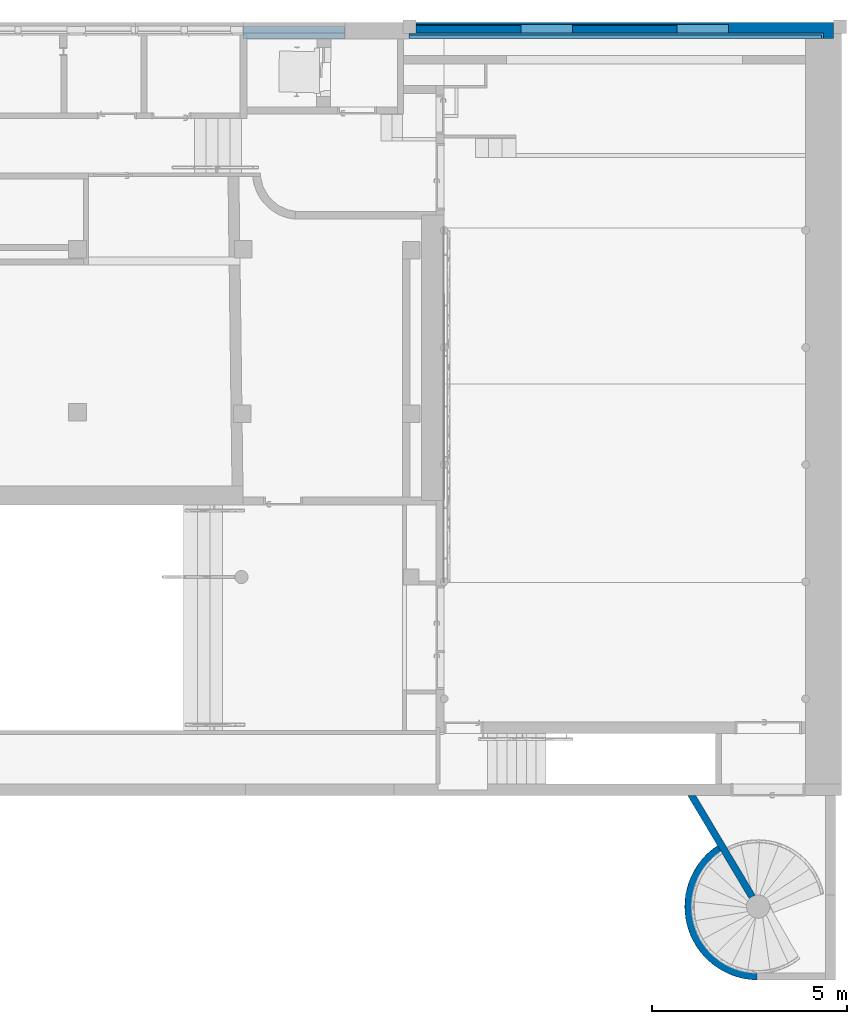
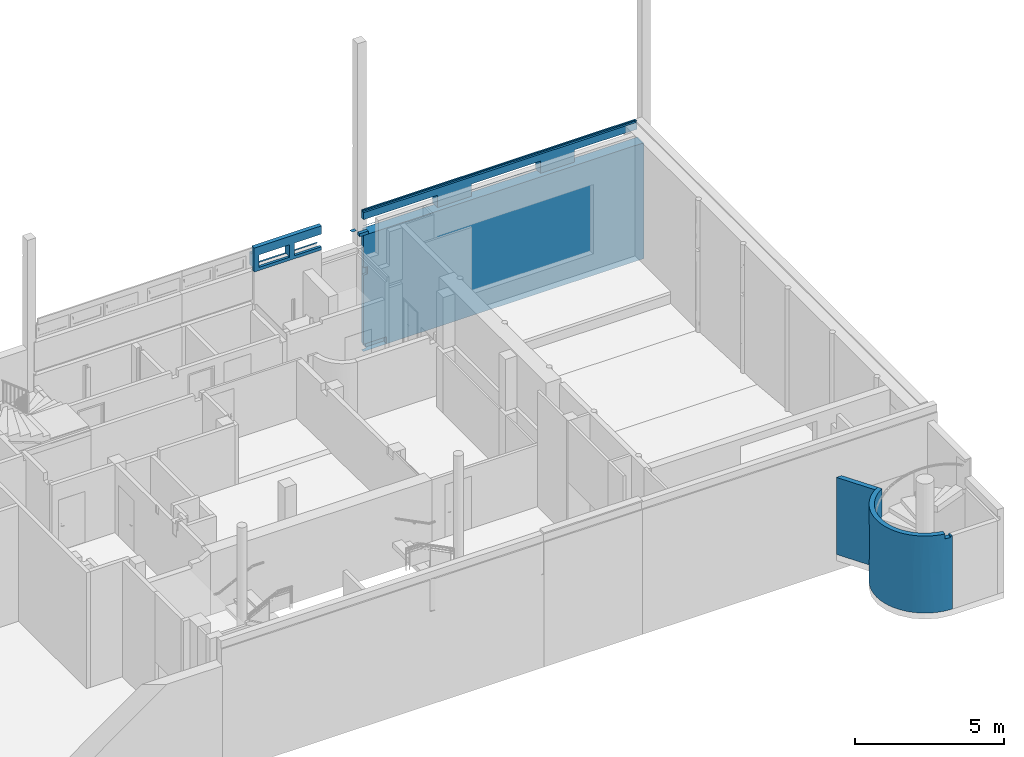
# One storey, part 31 of 39: 5 walls.
"""IFC4 building model written with IfcOpenShell, lengths in metres."""

import ifcopenshell
import ifcopenshell.guid

model = None  # the IFC model being written
_history = None  # IfcOwnerHistory: only IFC2X3 demands one
_inside = {}  # id of a spatial element -> (the spatial element, [elements in it])
_under = {}  # id of a project, library or spatial element -> (it, [spatial elements below it])
_declared = {}  # id of a project -> (the project, [libraries it declares])
_typed = {}  # id of a type object -> (the type object, [elements of that type])
_made_of = {}  # id of a material, layer set ... -> (it, [elements and type objects made of it])


def new_model(schema):
    """Start an empty IFC model of exactly this schema.

    Asked for "IFC4X3", IfcOpenShell would pick the latest addendum, in which some entities
    have other attributes; the version numbers below select the first issue.
    IFC2X3 requires an IfcOwnerHistory on every rooted entity: one is made here for all.
    """
    global model, _history
    if schema == "IFC4X3":
        model = ifcopenshell.file(schema_version=(4, 3, 0, 0))
    else:
        model = ifcopenshell.file(schema=schema)
    _inside.clear()
    _under.clear()
    _declared.clear()
    _typed.clear()
    _made_of.clear()
    _history = None
    if model.schema == "IFC2X3":
        org = make("IfcOrganization", Name="unknown")
        user = make(
            "IfcPersonAndOrganization",
            ThePerson=make("IfcPerson", FamilyName="unknown"),
            TheOrganization=org,
        )
        app = make(
            "IfcApplication",
            ApplicationDeveloper=org,
            Version="unknown",
            ApplicationFullName="unknown",
            ApplicationIdentifier="unknown",
        )
        _history = make(
            "IfcOwnerHistory",
            OwningUser=user,
            OwningApplication=app,
            ChangeAction="ADDED",
            CreationDate=0,
        )
    return model


def make(cls, **values):
    """One entity of the class cls with the attributes given. An attribute that is None is left unset."""
    return model.create_entity(
        cls, **{name: value for name, value in values.items() if value is not None}
    )


def entity(cls, *values):
    """Any entity or typed value of the class cls, its attributes in the order of the schema. None: left unset."""
    e = model.create_entity(cls)
    for i, value in enumerate(values):
        if value is not None:
            e[i] = value
    return e


def rooted(cls, **values):
    """An entity with a GlobalId (a new one), such as an element, a storey or a relation."""
    return make(cls, GlobalId=ifcopenshell.guid.new(), OwnerHistory=_history, **values)


def si_unit(unit_type, name, prefix=None):
    """IfcSIUnit, for example si_unit("LENGTHUNIT", "METRE", prefix="MILLI")."""
    return make("IfcSIUnit", UnitType=unit_type, Prefix=prefix, Name=name)


def converted_unit(unit_type, name, factor, base, dimensions=None, offset=None):
    """IfcConversionBasedUnit, such as the inch: factor (a typed value) times the base unit."""
    return make(
        "IfcConversionBasedUnit"
        if offset is None
        else "IfcConversionBasedUnitWithOffset",
        ConversionOffset=offset,
        Dimensions=None
        if dimensions is None
        else entity("IfcDimensionalExponents", *dimensions),
        UnitType=unit_type,
        Name=name,
        ConversionFactor=make(
            "IfcMeasureWithUnit", ValueComponent=factor, UnitComponent=base
        ),
    )


def derived_unit(unit_type, elements):
    """IfcDerivedUnit: a product of units, each with its exponent."""
    return make(
        "IfcDerivedUnit",
        Elements=[
            make("IfcDerivedUnitElement", Unit=unit, Exponent=power)
            for unit, power in elements
        ],
        UnitType=unit_type,
    )


def assignment(units):
    """IfcUnitAssignment: the units of a project."""
    return None if units is None else make("IfcUnitAssignment", Units=units)


def point(xyz):
    """IfcCartesianPoint."""
    return None if xyz is None else make("IfcCartesianPoint", Coordinates=xyz)


def direction(xyz):
    """IfcDirection."""
    return None if xyz is None else make("IfcDirection", DirectionRatios=xyz)


def frame(location, z_axis=None, x_axis=None):
    """IfcAxis2Placement3D, a coordinate frame: its origin and axes. An axis left out is left unset."""
    return make(
        "IfcAxis2Placement3D",
        Location=point(location),
        Axis=direction(z_axis),
        RefDirection=direction(x_axis),
    )


def origin():
    """The frame at (0, 0, 0) with its axes left unset."""
    return frame((0.0, 0.0, 0.0))


def place(relative_to, where):
    """IfcLocalPlacement: puts the frame where relative to a parent placement (None: the world)."""
    return make(
        "IfcLocalPlacement", PlacementRelTo=relative_to, RelativePlacement=where
    )


def context(
    kind, dimensions, precision=None, world=None, true_north=None, identifier=None
):
    """IfcGeometricRepresentationContext, for example the 3D "Model" context."""
    return make(
        "IfcGeometricRepresentationContext",
        ContextIdentifier=identifier,
        ContextType=kind,
        CoordinateSpaceDimension=dimensions,
        Precision=precision,
        WorldCoordinateSystem=world,
        TrueNorth=true_north,
    )


def subcontext(parent, identifier, kind, view, scale=None):
    """IfcGeometricRepresentationSubContext, for example "Body" below "Model"."""
    return make(
        "IfcGeometricRepresentationSubContext",
        ContextIdentifier=identifier,
        ContextType=kind,
        ParentContext=parent,
        TargetScale=scale,
        TargetView=view,
    )


def project(units=None, contexts=None):
    """IfcProject with its units and contexts."""
    return rooted(
        "IfcProject",
        Name="project",
        RepresentationContexts=contexts,
        UnitsInContext=assignment(units),
    )


def spatial(cls, under=None, at=None, **own):
    """A site, building, storey or space (cls), placed at a placement, below another one or the project."""
    s = rooted(cls, ObjectPlacement=at, **own)
    if under is not None:
        _under.setdefault(under.id(), (under, []))[1].append(s)
    return s


def point_list(points):
    """IfcCartesianPointList2D or 3D."""
    cls = (
        "IfcCartesianPointList2D" if len(points[0]) == 2 else "IfcCartesianPointList3D"
    )
    return make(cls, CoordList=points)


def polygons(points, faces, closed=None, point_numbers=None):
    """IfcPolygonalFaceSet: a face is its outer loop, then its inner loops; points numbered from 1."""
    made = []
    for loops in faces:
        if len(loops) == 1:
            made.append(make("IfcIndexedPolygonalFace", CoordIndex=loops[0]))
        else:
            made.append(
                make(
                    "IfcIndexedPolygonalFaceWithVoids",
                    CoordIndex=loops[0],
                    InnerCoordIndices=loops[1:],
                )
            )
    return make(
        "IfcPolygonalFaceSet",
        Coordinates=point_list(points),
        Closed=closed,
        Faces=made,
        PnIndex=point_numbers,
    )


def shape(context_of_items, identifier, shape_type, items):
    """IfcShapeRepresentation: the items that make up one representation, for example the "Body"."""
    return make(
        "IfcShapeRepresentation",
        ContextOfItems=context_of_items,
        RepresentationIdentifier=identifier,
        RepresentationType=shape_type,
        Items=items,
    )


def material(Name=None, Category=None):
    """IfcMaterial."""
    return make("IfcMaterial", Name=Name, Category=Category)


def layer(
    of_material, thickness, ventilated=None, Name=None, Category=None, Priority=None
):
    """IfcMaterialLayer: one layer of a wall or slab, of a material (None: an air gap)."""
    return make(
        "IfcMaterialLayer",
        Material=of_material,
        LayerThickness=thickness,
        IsVentilated=ventilated,
        Name=Name,
        Category=Category,
        Priority=Priority,
    )


def layer_set(layers, Name=None):
    """IfcMaterialLayerSet."""
    return make("IfcMaterialLayerSet", MaterialLayers=layers, LayerSetName=Name)


def made_of(thing, what):
    """Note that an element or type object is made of a material, layer set ...; save() writes the relation."""
    if what is not None:
        _made_of.setdefault(what.id(), (what, []))[1].append(thing)
    return thing


def type_object(cls, material=None, **own):
    """A type object (cls), such as IfcWallType, which elements share."""
    return made_of(rooted(cls, **own), material)


def element(
    cls,
    number,
    at=None,
    inside=None,
    cuts=None,
    type_object=None,
    material=None,
    context=None,
    identifier="Body",
    shape_type=None,
    held_by="IfcProductDefinitionShape",
    body=None,
    shapes=None,
    **own,
):
    """One element of the class cls, such as IfcWall. Its Tag is "e" and its number.

    at: its placement. inside: the storey or other place that contains it. cuts: it is an
    opening in that element (IfcRelVoidsElement). A single representation is given by context,
    identifier, shape_type and body (its items); several are given by shapes. held_by: the class
    of the entity that holds the representations. save() writes the other relations.
    """
    e = rooted(cls, Tag="e%d" % number, ObjectPlacement=at, **own)
    if body is not None:
        shapes = [shape(context, identifier, shape_type, body)]
    if shapes is not None:
        e.Representation = make(held_by, Representations=shapes)
    if inside is not None:
        _inside.setdefault(inside.id(), (inside, []))[1].append(e)
    if cuts is not None:
        rooted(
            "IfcRelVoidsElement", RelatingBuildingElement=cuts, RelatedOpeningElement=e
        )
    if type_object is not None:
        _typed.setdefault(type_object.id(), (type_object, []))[1].append(e)
    return made_of(e, material)


def aggregate(whole, parts):
    """IfcRelAggregates: a whole, such as a stair, and the parts it consists of."""
    return rooted("IfcRelAggregates", RelatingObject=whole, RelatedObjects=parts)


def save(model, path):
    """Write the relations noted so far, then the file.

    IfcRelAggregates (storeys below a building ...), IfcRelContainedInSpatialStructure (elements
    in a storey), IfcRelDefinesByType, IfcRelAssociatesMaterial and IfcRelDeclares: one each for
    every whole, place, type object, material and project.
    """
    for whole, parts in _under.values():
        aggregate(whole, parts)
    for where, things in _inside.values():
        rooted(
            "IfcRelContainedInSpatialStructure",
            RelatedElements=things,
            RelatingStructure=where,
        )
    for kind, things in _typed.values():
        rooted("IfcRelDefinesByType", RelatedObjects=things, RelatingType=kind)
    for what, things in _made_of.values():
        rooted("IfcRelAssociatesMaterial", RelatedObjects=things, RelatingMaterial=what)
    for by, libraries in _declared.values():
        rooted("IfcRelDeclares", RelatingContext=by, RelatedDefinitions=libraries)
    model.write(path)


model = new_model("IFC4")

# Units and contexts
model_context = context("Model", 3, precision=1e-05, world=origin(), true_north=direction((6.12303176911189e-17, 1.0)))
body_context = subcontext(model_context, "Body", "Model", "MODEL_VIEW")
ifc_project = project(units=[si_unit("LENGTHUNIT", "METRE"), si_unit("AREAUNIT", "SQUARE_METRE"), si_unit("VOLUMEUNIT", "CUBIC_METRE"), converted_unit("PLANEANGLEUNIT", "DEGREE", entity("IfcRatioMeasure", 0.0174532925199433), si_unit("PLANEANGLEUNIT", "RADIAN"), dimensions=[0, 0, 0, 0, 0, 0, 0]), si_unit("MASSUNIT", "GRAM", prefix="KILO"), derived_unit("MASSDENSITYUNIT", [(si_unit("MASSUNIT", "GRAM", prefix="KILO"), 1), (si_unit("LENGTHUNIT", "METRE"), -3)]), derived_unit("MOMENTOFINERTIAUNIT", [(si_unit("LENGTHUNIT", "METRE"), 4)]), si_unit("TIMEUNIT", "SECOND"), si_unit("FREQUENCYUNIT", "HERTZ"), si_unit("THERMODYNAMICTEMPERATUREUNIT", "DEGREE_CELSIUS"), derived_unit("THERMALTRANSMITTANCEUNIT", [(si_unit("MASSUNIT", "GRAM", prefix="KILO"), 1), (si_unit("THERMODYNAMICTEMPERATUREUNIT", "KELVIN"), -1), (si_unit("TIMEUNIT", "SECOND"), -3)]), derived_unit("VOLUMETRICFLOWRATEUNIT", [(si_unit("LENGTHUNIT", "METRE"), 3), (si_unit("TIMEUNIT", "SECOND"), -1)]), si_unit("ELECTRICCURRENTUNIT", "AMPERE"), si_unit("ELECTRICVOLTAGEUNIT", "VOLT"), si_unit("POWERUNIT", "WATT"), si_unit("FORCEUNIT", "NEWTON", prefix="KILO"), si_unit("ILLUMINANCEUNIT", "LUX"), si_unit("LUMINOUSFLUXUNIT", "LUMEN"), si_unit("LUMINOUSINTENSITYUNIT", "CANDELA"), derived_unit("USERDEFINED", [(si_unit("MASSUNIT", "GRAM", prefix="KILO"), -1), (si_unit("LENGTHUNIT", "METRE"), -2), (si_unit("TIMEUNIT", "SECOND"), 3), (si_unit("LUMINOUSFLUXUNIT", "LUMEN"), 1)]), derived_unit("LINEARVELOCITYUNIT", [(si_unit("LENGTHUNIT", "METRE"), 1), (si_unit("TIMEUNIT", "SECOND"), -1)]), si_unit("PRESSUREUNIT", "PASCAL"), derived_unit("USERDEFINED", [(si_unit("LENGTHUNIT", "METRE"), -2), (si_unit("MASSUNIT", "GRAM", prefix="KILO"), 1), (si_unit("TIMEUNIT", "SECOND"), -2)]), derived_unit("LINEARFORCEUNIT", [(si_unit("MASSUNIT", "GRAM", prefix="KILO"), 1), (si_unit("LENGTHUNIT", "METRE"), 1), (si_unit("TIMEUNIT", "SECOND"), -2), (si_unit("LENGTHUNIT", "METRE"), -1)]), derived_unit("PLANARFORCEUNIT", [(si_unit("MASSUNIT", "GRAM", prefix="KILO"), 1), (si_unit("LENGTHUNIT", "METRE"), 1), (si_unit("TIMEUNIT", "SECOND"), -2), (si_unit("LENGTHUNIT", "METRE"), -2)])], contexts=[model_context])

# Site, building, storey
site_placement = place(None, origin())
site = spatial("IfcSite", under=ifc_project, at=site_placement, Name="Default", CompositionType="ELEMENT")
building_placement = place(site_placement, origin())
building = spatial("IfcBuilding", under=site, at=building_placement, Name="HOTEL CONSULAIRE BOULOGNE SUR MER", CompositionType="ELEMENT")
storey_placement = place(building_placement, frame((0.0, 0.0, -5.02343668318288)))
storey = spatial("IfcBuildingStorey", under=building, at=storey_placement, Name="SS3", CompositionType="ELEMENT", Elevation=-5.02343668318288)

# Walls
ifc_material = material(Name="Mur par défaut", Category="Divers")
ifc_layer_1 = layer(ifc_material, 0.32, Name="Mur par défaut", Category="Divers")
ifc_layer_set_1 = layer_set([ifc_layer_1], Name="Mur de base:Générique - Ext.320 mm")
wall_type_1 = type_object("IfcWallType", Name="Mur de base:Générique - Ext.320 mm", PredefinedType="NOTDEFINED", material=ifc_layer_set_1)
wall_1_placement = place(storey_placement, frame((7.20898026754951, -10.07432416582, 3.81699999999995)))
element("IfcWall", 1, at=wall_1_placement, inside=storey, type_object=wall_type_1, material=ifc_layer_set_1, Name="Mur de base:Générique - Ext.320 mm", ObjectType="Mur de base:Générique - Ext.320 mm", PredefinedType="NOTDEFINED", context=body_context, shape_type="Tessellation", body=[
    polygons([(1.55444242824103, -0.16, 0.129258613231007), (2.61644380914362, -0.16, 0.129258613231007), (2.61644380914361, -0.059999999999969, 0.129258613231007), (1.55444242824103, -0.0599999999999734, 0.129258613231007), (0.17794798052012, -0.16, 0.129258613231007), (1.37654209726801, -0.16, 0.129258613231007), (1.37654209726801, -0.0599999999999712, 0.129258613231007), (0.177947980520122, -0.0599999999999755, 0.129258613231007), (2.61644380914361, -0.000308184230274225, 0.986436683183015), (2.61644380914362, -0.16, 0.986436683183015), (2.61644380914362, -0.16, 0.645389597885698), (2.61644380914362, 0.140000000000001, 0.645389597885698), (2.61644380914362, 0.16, 0.645389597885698), (2.61644380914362, 0.16, 0.646436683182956), (2.61644380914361, -0.000308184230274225, 0.646436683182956), (2.61644380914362, 0.16, 0.121777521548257), (2.61644380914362, 0.16, 0.129258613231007), (2.61644380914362, 0.140000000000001, 0.129258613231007), (2.61644380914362, 0.0888221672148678, 0.129258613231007), (-1.70439024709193e-15, -0.16, 0.0), (2.61644380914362, -0.16, 0.0), (1.55444242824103, -0.16, 0.645389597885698), (2.25568594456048, -0.16, 0.986436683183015), (1.89566927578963, -0.16, 0.986436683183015), (-1.70439024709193e-15, -0.16, 0.986436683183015), (0.17794798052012, -0.16, 0.645389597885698), (1.376542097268, -0.16, 0.645389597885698), (-8.05840482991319e-16, 0.16, 0.646436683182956), (1.55444242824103, 0.16, 0.645389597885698), (1.55444242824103, 0.16, 0.129258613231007), (-8.05840482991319e-16, 0.16, 0.121777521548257), (1.37654209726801, 0.16, 0.645389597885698), (0.177947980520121, 0.16, 0.645389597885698), (0.177947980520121, 0.16, 0.129258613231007), (1.37654209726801, 0.16, 0.129258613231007), (-1.01751827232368e-15, -0.0599999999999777, 0.0), (2.61644380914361, -0.059999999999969, 0.0), (0.0999999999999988, -0.000308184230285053, 0.986436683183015), (-1.25389497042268e-15, -0.000308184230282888, 0.986436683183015), (-1.25389497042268e-15, -0.000308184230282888, 0.646436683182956), (-1.01751827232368e-15, -0.0599999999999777, 0.144900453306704), (0.177947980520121, -0.0599999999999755, 0.144900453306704), (1.55444242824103, 0.0888221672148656, 0.129258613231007), (1.55444242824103, -0.0599999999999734, 0.144900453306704), (1.37654209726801, -0.0599999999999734, 0.144900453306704), (1.37654209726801, 0.0888221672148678, 0.129258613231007), (0.177947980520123, 0.0888221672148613, 0.129258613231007), (0.177947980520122, 0.140000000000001, 0.645389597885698), (1.37654209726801, 0.140000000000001, 0.645389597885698), (0.177947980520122, 0.140000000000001, 0.129258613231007), (1.37654209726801, 0.140000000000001, 0.129258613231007), (1.55444242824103, 0.140000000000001, 0.645389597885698), (1.55444242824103, 0.140000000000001, 0.129258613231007)], [[[2, 3, 4, 1]], [[6, 7, 8, 5]], [[23, 10, 9, 38, 39, 25, 24]], [[28, 40, 15, 14]], [[35, 34, 50, 47, 46, 51]], [[17, 30, 53, 43, 19, 18]], [[9, 10, 11, 12, 13, 14, 15]], [[18, 19, 16, 17]], [[2, 21, 37, 3]], [[47, 50, 34, 33, 48, 26, 5, 8, 42]], [[43, 53, 30, 29, 52, 22, 1, 4, 44]], [[20, 21, 2, 1, 22, 11, 10, 23, 24, 25], [5, 26, 27, 6]], [[16, 31, 28, 14, 13, 29, 30, 17], [35, 32, 33, 34]], [[38, 9, 15, 40, 39]], [[8, 7, 45, 44, 4, 3, 37, 36, 41, 42]], [[21, 20, 36, 37]], [[33, 32, 49, 27, 26, 48]], [[29, 13, 12, 11, 22, 52]], [[20, 25, 39, 40, 28, 31, 41, 36]], [[49, 32, 35, 51, 46, 45, 7, 6, 27]], [[47, 42, 41, 31, 16, 19, 43, 44, 45, 46]]], closed=True),
])
ifc_layer_2 = layer(ifc_material, 0.4, Name="Mur par défaut", Category="Divers")
ifc_layer_set_2 = layer_set([ifc_layer_2], Name="Mur de base:Générique - Ext.400")
wall_type_2 = type_object("IfcWallType", Name="Mur de base:Générique - Ext.400", PredefinedType="NOTDEFINED", material=ifc_layer_set_2)
wall_2_placement = place(storey_placement, frame((22.3370193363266, -10.0140173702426, -0.940919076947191), z_axis=(0.0, 0.0, 1.0), x_axis=(-1.0, 0.0, 0.0)))
element("IfcWall", 2, at=wall_2_placement, inside=storey, type_object=wall_type_2, material=ifc_layer_set_2, Name="Mur de base:Générique - Ext.400", ObjectType="Mur de base:Générique - Ext.400", PredefinedType="NOTDEFINED", context=body_context, shape_type="Tessellation", body=[
    polygons([(10.8760607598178, 0.200000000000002, 0.0), (10.8760607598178, 0.200000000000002, 0.000919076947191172), (10.8760607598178, 0.0706149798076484, 0.000919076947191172), (10.8760607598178, 0.0706149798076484, 0.0), (10.6903810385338, 0.0706149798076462, 0.000919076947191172), (10.6903810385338, 0.0706149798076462, 0.0), (2.26491087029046e-15, -0.2, 4.75791907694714), (2.26491087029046e-15, -0.2, 0.0), (10.6903810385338, -0.2, 0.0), (10.6903810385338, -0.2, 4.75791907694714), (9.44887232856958e-16, 0.2, 0.0), (9.44887232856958e-16, 0.2, 4.75791907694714), (10.6903810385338, 0.2, 4.75791907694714), (10.8760607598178, 0.200000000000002, 4.75791907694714), (10.8760607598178, 0.200000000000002, 4.29275597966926), (10.8760607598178, 0.200000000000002, 3.43091907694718), (10.7265813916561, 0.2, 3.43091907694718), (10.7265813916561, 0.2, 3.13091907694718), (10.8760607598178, 0.200000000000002, 3.13091907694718), (10.8760607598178, 0.200000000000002, 0.290919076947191), (9.97779251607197, 0.2, 0.290919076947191), (9.97779251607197, 0.2, 0.000919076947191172), (10.6903810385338, 0.0706149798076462, 4.75791907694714), (10.8760607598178, 0.0706149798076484, 4.75791907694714), (10.8760607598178, 0.0706149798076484, 4.29278028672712), (10.8760607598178, 0.0706149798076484, 0.290919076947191), (10.8760607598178, 0.108054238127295, 3.13091907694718), (10.8760607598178, 0.108054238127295, 3.43091907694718), (9.97779251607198, 0.0103067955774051, 0.000919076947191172), (10.6903810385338, 0.0103067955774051, 0.000919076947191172), (9.97779251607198, 0.0103067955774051, 0.290919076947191), (10.6903810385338, 0.0706149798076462, 0.290919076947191), (10.6903810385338, 0.0103067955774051, 0.290919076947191), (10.7265813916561, 0.108054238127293, 3.13091907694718), (10.7265813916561, 0.108054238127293, 3.43091907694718)], [[[3, 4, 1, 2]], [[26, 20, 19, 27, 28, 16, 15, 14, 24, 25]], [[21, 31, 29, 22]], [[33, 32, 23, 10, 9, 6, 5, 30]], [[17, 35, 34, 18]], [[4, 3, 5, 6]], [[7, 8, 9, 10]], [[25, 24, 23, 32, 26]], [[2, 1, 11, 12, 13, 14, 15, 16, 17, 18, 19, 20, 21, 22]], [[33, 30, 29, 31]], [[34, 35, 28, 27]], [[8, 11, 1, 4, 6, 9]], [[32, 33, 31, 21, 20, 26]], [[16, 28, 35, 17]], [[7, 10, 23, 24, 14, 13, 12]], [[5, 3, 2, 22, 29, 30]], [[18, 34, 27, 19]], [[8, 7, 12, 11]]], closed=True),
])
ifc_layer_3 = layer(ifc_material, 0.18, Name="Mur par défaut", Category="Divers")
ifc_layer_set_3 = layer_set([ifc_layer_3], Name="Mur de base:Générique - Ext.180")
wall_type_3 = type_object("IfcWallType", Name="Mur de base:Générique - Ext.180", PredefinedType="NOTDEFINED", material=ifc_layer_set_3)
wall_3_placement = place(storey_placement, frame((18.6825593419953, -29.5719659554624, 0.0), z_axis=(0.0, 0.0, 1.0), x_axis=(0.512234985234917, -0.858845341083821, 0.0)))
element("IfcWall", 3, at=wall_3_placement, inside=storey, type_object=wall_type_3, material=ifc_layer_set_3, Name="Mur de base:Générique - Ext.180", ObjectType="Mur de base:Générique - Ext.180", PredefinedType="NOTDEFINED", context=body_context, shape_type="Tessellation", body=[
    polygons([(0.0, -0.089999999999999, 0.0), (1.48654629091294, -0.0899999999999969, 0.0), (1.66678367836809, -0.089999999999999, 0.0), (3.07061188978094, -0.089999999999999, 0.0), (3.07061188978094, -0.089999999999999, 1.59061083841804), (1.66678367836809, -0.089999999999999, 1.59061083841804), (1.48654629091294, -0.089999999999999, 1.59061083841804), (1.48654629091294, -0.0899999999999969, 3.16190864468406), (0.0, -0.089999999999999, 3.16190864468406), (0.107356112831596, 0.0900000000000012, 0.0), (0.107356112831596, 0.0900000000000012, 3.16190864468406), (1.48638163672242, 0.089999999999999, 3.16190864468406), (1.48638163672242, 0.089999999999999, 1.59061083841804), (1.6666015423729, 0.0900000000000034, 1.59061083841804), (3.07061188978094, 0.0900000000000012, 1.59061083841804), (3.07061188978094, 0.0900000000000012, 0.0), (1.48430834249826, -1.97184490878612e-06, 3.16190864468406), (1.48430834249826, -1.97184490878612e-06, 1.59061083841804), (1.48638163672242, 0.089999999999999, 2.40494785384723), (1.48654629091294, -0.089999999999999, 2.34757162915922), (1.48430927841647, -0.000827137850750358, 2.50737200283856)], [[[9, 1, 2, 3, 4, 5, 6, 7, 20, 8]], [[16, 10, 11, 12, 19, 13, 14, 15]], [[10, 1, 9, 11]], [[4, 3, 2, 1, 10, 16]], [[5, 4, 16, 15]], [[9, 8, 17, 12, 11]], [[6, 5, 15, 14, 13, 18, 7]], [[13, 19, 18]], [[21, 17, 8]], [[18, 21, 20]], [[21, 12, 17]], [[20, 21, 8]], [[20, 7, 18]], [[19, 21, 18]], [[21, 19, 12]]], closed=True),
])
wall_4_placement = place(storey_placement, frame((19.5715224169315, -30.877631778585, 0.0)))
element("IfcWall", 4, at=wall_4_placement, inside=storey, type_object=wall_type_3, material=ifc_layer_set_3, Name="Mur de base:Générique - Ext.180", ObjectType="Mur de base:Générique - Ext.180", PredefinedType="NOTDEFINED", context=body_context, shape_type="Tessellation", body=[
    polygons([(0.0420246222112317, -0.0795859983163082, 3.16190864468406), (-0.0502903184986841, 0.0751950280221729, 3.16190864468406), (-0.128671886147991, 0.0308604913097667, 3.16190864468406), (-0.204787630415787, -0.0171426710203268, 3.16190864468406), (-0.322609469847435, -0.102192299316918, 3.16190864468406), (-0.433504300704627, -0.196084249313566, 3.16190864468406), (-0.536815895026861, -0.298260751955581, 3.16190864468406), (-0.631927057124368, -0.408111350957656, 3.16190864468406), (-0.718269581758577, -0.524979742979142, 3.16190864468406), (-0.79532765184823, -0.648167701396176, 3.16190864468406), (-0.862640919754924, -0.776939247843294, 3.16190864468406), (-0.919807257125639, -0.910525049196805, 3.16190864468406), (-0.966485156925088, -1.04812701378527, 3.16190864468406), (-1.00239577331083, -1.1889230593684, 3.16190864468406), (-1.02732458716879, -1.33207202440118, 3.16190864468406), (-1.04112268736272, -1.47671869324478, 3.16190864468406), (-1.04370766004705, -1.62199890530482, 3.16190864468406), (-1.03506408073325, -1.76704471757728, 3.16190864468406), (-1.01524360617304, -1.91098958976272, 3.16190864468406), (-0.984364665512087, -2.0529735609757, 3.16190864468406), (-0.942611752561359, -2.19214838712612, 3.16190864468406), (-0.890234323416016, -2.3276826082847, 3.16190864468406), (-0.827545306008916, -2.4587665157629, 3.16190864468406), (-0.754919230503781, -2.58461698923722, 3.16190864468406), (-0.672789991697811, -2.70448217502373, 3.16190864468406), (-0.58164825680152, -2.81764597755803, 3.16190864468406), (-0.482038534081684, -2.92343233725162, 3.16190864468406), (-0.374555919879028, -3.02120926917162, 3.16190864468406), (-0.25984254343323, -3.11039263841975, 3.16190864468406), (-0.138583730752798, -3.19044964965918, 3.16190864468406), (-0.0115039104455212, -3.26090202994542, 3.16190864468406), (0.120637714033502, -3.32132888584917, 3.16190864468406), (0.257051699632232, -3.37136921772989, 3.16190864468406), (0.396923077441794, -3.41072407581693, 3.16190864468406), (0.539418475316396, -3.43915870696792, 3.16190864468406), (0.565114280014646, -3.26097937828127, 3.16190864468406), (0.426591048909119, -3.23268311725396, 3.16190864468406), (0.290900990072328, -3.19297426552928, 3.16190864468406), (0.158979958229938, -3.14212704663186, 3.16190864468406), (0.0317405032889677, -3.0804931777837, 3.16190864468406), (-0.089937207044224, -3.00849899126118, 3.16190864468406), (-0.205211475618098, -2.92664248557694, 3.16190864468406), (-0.31328489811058, -2.83548988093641, 3.16190864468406), (-0.413409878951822, -2.73567170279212, 3.16190864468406), (-0.504893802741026, -2.62787842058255, 3.16190864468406), (-0.587103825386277, -2.51285567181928, 3.16190864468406), (-0.659471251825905, -2.39139910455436, 3.16190864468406), (-0.721495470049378, -2.26434887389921, 3.16190864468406), (-0.772747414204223, -2.13258383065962, 3.16190864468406), (-0.812872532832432, -1.99701544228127, 3.16190864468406), (-0.841593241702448, -1.85858148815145, 3.16190864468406), (-0.858710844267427, -1.71823957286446, 3.16190864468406), (-0.864106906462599, -1.57696050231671, 3.16190864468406), (-0.857744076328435, -1.43572156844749, 3.16190864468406), (-0.839666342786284, -1.29549978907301, 3.16190864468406), (-0.809998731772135, -1.1572651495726, 3.16190864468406), (-0.768946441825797, -1.02197389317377, 3.16190864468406), (-0.716793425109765, -0.890561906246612, 3.16190864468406), (-0.65390042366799, -0.763938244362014, 3.16190864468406), (-0.580702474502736, -0.642978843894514, 3.16190864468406), (-0.497705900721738, -0.528520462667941, 3.16190864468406), (-0.405484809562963, -0.421354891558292, 3.16190864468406), (-0.304677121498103, -0.322223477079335, 3.16190864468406), (-0.195980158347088, -0.231811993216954, 3.16190864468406), (-0.0801458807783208, -0.15074593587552, 3.16190864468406), (-0.112474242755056, -0.17194472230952, 0.0), (-0.228221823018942, -0.257055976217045, 0.0), (-0.336368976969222, -0.351637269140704, 0.0), (-0.436143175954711, -0.455012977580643, 0.0), (-0.526831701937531, -0.566444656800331, 0.0), (-0.607786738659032, -0.685136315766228, 0.0), (-0.678429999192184, -0.81024010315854, 0.0), (-0.738256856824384, -0.940862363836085, 0.0), (-0.786839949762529, -1.07607002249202, 0.0), (-0.823832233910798, -1.21489724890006, 0.0), (-0.848969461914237, -1.35635235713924, 0.0), (-0.862072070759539, -1.49942488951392, 0.0), (-0.863046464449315, -1.64309283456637, 0.0), (-0.851885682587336, -1.7863299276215, 0.0), (-0.828669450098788, -1.92811298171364, 0.0), (-0.793563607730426, -2.06742919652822, 0.0), (-0.746818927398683, -2.20328339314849, 0.0), (-0.688769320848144, -2.33470512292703, 0.0), (-0.619829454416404, -2.46075559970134, 0.0), (-0.540491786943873, -2.58053440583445, 0.0), (-0.451323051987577, -2.6931859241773, 0.0), (-0.35296020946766, -2.7979054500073, 0.0), (-0.246105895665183, -2.89394493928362, 0.0), (-0.131523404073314, -2.98061835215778, 0.0), (-0.0100312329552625, -3.05730655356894, 0.0), (0.117502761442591, -3.12346173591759, 0.0), (0.250167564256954, -3.17861133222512, 0.0), (0.387015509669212, -3.22236139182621, 0.0), (0.527069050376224, -3.25439939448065, 0.0), (0.66932774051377, -3.27449648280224, 0.0), (0.812775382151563, -3.28250909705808, 0.0), (0.81158849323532, -3.46250909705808, 0.0), (0.657696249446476, -3.45421150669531, 0.0), (0.505000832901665, -3.43333610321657, 0.0), (0.354528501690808, -3.40002318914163, 0.0), (0.207290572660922, -3.3544966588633, 0.0), (0.0642766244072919, -3.29706249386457, 0.0), (-0.0735521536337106, -3.2281067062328, 0.0), (-0.20526942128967, -3.14809274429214, 0.0), (-0.329989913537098, -3.05755837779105, 0.0), (-0.446875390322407, -2.95711208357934, 0.0), (-0.555140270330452, -2.84742895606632, 0.0), (-0.654056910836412, -2.7292461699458, 0.0), (-0.74296049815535, -2.60335802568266, 0.0), (-0.821253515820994, -2.47061061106, 0.0), (-0.888409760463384, -2.33189611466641, 0.0), (-0.943977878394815, -2.18814682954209, 0.0), (-0.987584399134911, -2.04032888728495, 0.0), (-1.01893624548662, -1.8894357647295, 0.0), (-1.0378227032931, -1.7364816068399, 0.0), (-1.04411683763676, -1.58249441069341, 0.0), (-1.0377763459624, -1.42850911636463, 0.0), (-1.01884384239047, -1.27556065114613, 0.0), (-0.98744657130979, -1.12467697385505, 0.0), (-0.943795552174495, -0.976872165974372, 0.0), (-0.888184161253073, -0.833139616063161, 0.0), (-0.820986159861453, -0.694445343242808, 0.0), (-0.742653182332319, -0.561721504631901, 0.0), (-0.653711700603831, -0.435860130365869, 0.0), (-0.554759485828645, -0.317707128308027, 0.0), (-0.446461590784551, -0.208056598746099, 0.0), (-0.329545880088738, -0.107645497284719, 0.0), (-0.204798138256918, -0.0171486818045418, 0.0), (-0.112474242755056, -0.17194472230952, 1.59061083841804), (-0.0364481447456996, -0.123718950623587, 1.59061083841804), (0.0420246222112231, -0.0795859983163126, 1.59061083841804), (0.565114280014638, -3.26097937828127, 2.96193690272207), (0.664396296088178, -3.27400403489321, 2.96193690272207), (0.764272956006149, -3.28116037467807, 2.96193690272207), (0.764272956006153, -3.28116037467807, 3.01190864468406), (0.788519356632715, -3.28200779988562, 3.01190864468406), (0.812775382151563, -3.28250909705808, 3.01190864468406), (0.812775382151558, -3.28250909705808, 1.50595191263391), (0.358333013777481, -3.21423998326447, 1.61386990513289), (0.0947191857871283, -3.11263351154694, 1.61588997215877), (-0.260196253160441, -2.88219024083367, 1.6182889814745), (-0.460272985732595, -2.68272657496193, 1.6194676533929), (-0.691804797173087, -2.32851909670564, 1.62060478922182), (-0.828672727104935, -1.92809718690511, 1.62098506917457), (-0.862878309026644, -1.64765616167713, 1.62081823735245), (-0.850163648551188, -1.36542265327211, 1.62031522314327), (-0.744236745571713, -0.955725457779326, 1.61893056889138), (-0.618559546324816, -0.702697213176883, 1.61758753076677), (-0.452709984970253, -0.473978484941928, 1.61590867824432), (0.597985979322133, -3.26595153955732, 1.44628561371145), (-0.294436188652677, -0.31303340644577, 1.55645927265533), (-0.089950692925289, -3.00849023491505, 1.47377152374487), (-0.587108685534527, -2.51284823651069, 1.45404646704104), (-0.772748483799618, -2.1325807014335, 1.44016517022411), (-0.810001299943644, -1.15727508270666, 1.4582764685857), (0.811588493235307, -3.46250909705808, 3.01190864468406), (0.775013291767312, -3.46168255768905, 3.01190864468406), (0.738461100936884, -3.46014441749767, 3.01190864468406), (0.738461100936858, -3.46014441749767, 2.96193690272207), (0.638660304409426, -3.45230237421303, 2.96193690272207), (0.539418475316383, -3.43915870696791, 2.96193690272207), (-0.0502903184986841, 0.0751950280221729, 1.59061083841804), (-0.128650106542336, 0.030873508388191, 1.59061083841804), (-0.204798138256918, -0.0171486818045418, 1.59061083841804), (-0.48614767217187, -0.246173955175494, 1.59899045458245), (-1.04078778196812, -1.69460535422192, 1.6091225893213), (-1.00117645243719, -1.98228002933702, 1.59477393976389), (-0.628312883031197, -2.76194498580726, 1.60936607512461), (-0.860156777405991, -2.39383046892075, 1.58612823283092), (-0.676227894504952, -0.465711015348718, 1.61204036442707), (-1.01624376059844, -1.26025659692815, 1.62130394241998), (-0.892515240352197, -0.843179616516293, 1.62227616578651), (0.427525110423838, -3.4178010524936, 1.54365662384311), (-0.429242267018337, -2.97335965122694, 1.61862993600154), (-0.199986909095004, -3.15159314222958, 1.62291119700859), (0.0539828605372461, -3.29239264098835, 1.62220975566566)], [[[12, 13, 14, 15, 16, 17, 18, 19, 20, 21, 22, 23, 24, 25, 26, 27, 28, 29, 30, 31, 32, 33, 34, 35, 36, 37, 38, 39, 40, 41, 42, 43, 44, 45, 46, 47, 48, 49, 50, 51, 52, 53, 54, 55, 56, 57, 58, 59, 60, 61, 62, 63, 64, 65, 1, 2, 3, 4, 5, 6, 7, 8, 9, 10, 11]], [[136, 135, 158, 157, 156, 137]], [[159, 134, 133, 132, 161, 160]], [[107, 108, 109, 110, 111, 112, 113, 114, 115, 116, 117, 118, 119, 120, 121, 122, 123, 124, 125, 126, 127, 128, 66, 67, 68, 69, 70, 71, 72, 73, 74, 75, 76, 77, 78, 79, 80, 81, 82, 83, 84, 85, 86, 87, 88, 89, 90, 91, 92, 93, 94, 95, 96, 97, 98, 99, 100, 101, 102, 103, 104, 105, 106]], [[130, 129, 164, 163, 162, 131]], [[84, 153, 85]], [[133, 134, 138]], [[38, 37, 139]], [[140, 39, 38]], [[94, 93, 139]], [[37, 36, 132]], [[134, 136, 137]], [[39, 140, 40]], [[48, 143, 154]], [[139, 140, 38]], [[134, 135, 136]], [[152, 41, 40]], [[152, 42, 41]], [[92, 91, 140]], [[43, 42, 141]], [[142, 44, 43]], [[88, 141, 89]], [[152, 141, 42]], [[45, 44, 142]], [[153, 46, 45]], [[87, 86, 142]], [[154, 49, 48]], [[48, 47, 143]], [[153, 143, 47]], [[83, 143, 84]], [[153, 47, 46]], [[52, 51, 144]], [[142, 43, 141]], [[80, 144, 81]], [[154, 50, 49]], [[95, 138, 96]], [[137, 138, 134]], [[133, 150, 132]], [[129, 151, 67]], [[89, 152, 90]], [[133, 138, 150]], [[94, 150, 95]], [[94, 139, 150]], [[37, 132, 139]], [[92, 139, 93]], [[92, 140, 139]], [[140, 91, 90]], [[152, 140, 90]], [[141, 152, 89]], [[87, 141, 88]], [[142, 141, 87]], [[86, 85, 142]], [[142, 85, 153]], [[153, 84, 143]], [[143, 83, 82]], [[154, 143, 82]], [[51, 50, 144]], [[54, 53, 145]], [[53, 52, 145]], [[79, 78, 145]], [[155, 56, 55]], [[52, 144, 145]], [[55, 54, 146]], [[77, 76, 146]], [[59, 58, 147]], [[73, 147, 74]], [[58, 57, 147]], [[155, 147, 57]], [[61, 60, 148]], [[155, 57, 56]], [[71, 148, 72]], [[54, 145, 146]], [[60, 59, 148]], [[151, 63, 62]], [[62, 61, 149]], [[69, 149, 70]], [[95, 150, 138]], [[148, 149, 61]], [[151, 129, 64]], [[132, 150, 139]], [[65, 129, 130]], [[64, 129, 65]], [[63, 151, 64]], [[1, 65, 130]], [[40, 140, 152]], [[151, 62, 149]], [[81, 154, 82]], [[59, 147, 148]], [[147, 155, 74]], [[68, 151, 149]], [[80, 79, 144]], [[79, 145, 144]], [[145, 78, 77]], [[145, 77, 146]], [[75, 146, 76]], [[155, 146, 75]], [[155, 75, 74]], [[144, 154, 81]], [[147, 72, 148]], [[148, 71, 70]], [[1, 130, 131]], [[73, 72, 147]], [[55, 146, 155]], [[149, 148, 70]], [[69, 68, 149]], [[67, 151, 68]], [[129, 67, 66]], [[45, 142, 153]], [[144, 50, 154]], [[124, 170, 125]], [[125, 170, 165]], [[123, 122, 170]], [[163, 164, 3]], [[126, 165, 127]], [[127, 164, 128]], [[127, 165, 164]], [[122, 172, 170]], [[117, 116, 166]], [[116, 115, 166]], [[167, 166, 114]], [[171, 172, 120]], [[118, 171, 119]], [[171, 120, 119]], [[166, 171, 117]], [[172, 122, 121]], [[114, 113, 167]], [[5, 164, 165]], [[165, 7, 6]], [[167, 19, 166]], [[170, 7, 165]], [[9, 8, 170]], [[112, 167, 113]], [[165, 6, 5]], [[2, 162, 163]], [[166, 17, 16]], [[3, 164, 4]], [[4, 164, 5]], [[125, 165, 126]], [[163, 3, 2]], [[114, 166, 115]], [[168, 25, 24]], [[171, 14, 13]], [[14, 171, 15]], [[172, 11, 10]], [[16, 171, 166]], [[17, 166, 18]], [[117, 171, 118]], [[16, 15, 171]], [[120, 172, 121]], [[169, 22, 21]], [[170, 10, 9]], [[170, 8, 7]], [[11, 172, 12]], [[172, 13, 12]], [[110, 169, 111]], [[10, 170, 172]], [[123, 170, 124]], [[107, 168, 108]], [[13, 172, 171]], [[19, 18, 166]], [[33, 173, 34]], [[167, 20, 19]], [[107, 106, 174]], [[168, 107, 174]], [[105, 104, 175]], [[169, 112, 111]], [[169, 109, 168]], [[109, 169, 110]], [[108, 168, 109]], [[175, 174, 105]], [[173, 101, 100]], [[98, 160, 173]], [[98, 173, 99]], [[159, 98, 97]], [[176, 175, 103]], [[101, 173, 176]], [[173, 160, 161]], [[98, 159, 160]], [[103, 102, 176]], [[97, 156, 159]], [[173, 161, 34]], [[175, 176, 31]], [[25, 168, 26]], [[101, 176, 102]], [[27, 174, 28]], [[26, 168, 174]], [[174, 27, 26]], [[167, 21, 20]], [[175, 29, 28]], [[22, 169, 23]], [[169, 24, 23]], [[105, 174, 106]], [[21, 167, 169]], [[103, 175, 104]], [[168, 24, 169]], [[34, 161, 35]], [[157, 158, 159]], [[156, 157, 159]], [[33, 176, 173]], [[29, 175, 30]], [[31, 176, 32]], [[176, 33, 32]], [[31, 30, 175]], [[174, 175, 28]], [[99, 173, 100]], [[112, 169, 167]], [[66, 128, 164, 129]], [[1, 131, 162, 2]], [[36, 35, 161, 132]], [[135, 134, 159, 158]], [[156, 97, 96, 138, 137]]], closed=True),
])
ifc_layer_4 = layer(ifc_material, 0.35, Name="Mur par défaut", Category="Divers")
ifc_layer_set_4 = layer_set([ifc_layer_4], Name="Mur de base:Générique - Ext.350")
wall_type_4 = type_object("IfcWallType", Name="Mur de base:Générique - Ext.350", PredefinedType="NOTDEFINED", material=ifc_layer_set_4)
wall_5_placement = place(storey_placement, frame((22.0800604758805, -10.0390173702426, 3.81699999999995), z_axis=(0.0, 0.0, 1.0), x_axis=(-1.0, 0.0, 0.0)))
element("IfcWall", 5, at=wall_5_placement, inside=storey, type_object=wall_type_4, material=ifc_layer_set_4, Name="Mur de base:Générique - Ext.350", ObjectType="Mur de base:Générique - Ext.350", PredefinedType="NOTDEFINED", context=body_context, shape_type="Tessellation", body=[
    polygons([(9.44887232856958e-16, 0.174999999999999, 0.98643668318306), (0.0471245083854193, 0.174999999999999, 0.98643668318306), (0.0471245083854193, 0.174999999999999, 0.936436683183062), (10.418862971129, 0.174999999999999, 0.936436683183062), (10.6191018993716, 0.175000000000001, 0.936436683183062), (10.6191018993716, 0.175000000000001, 0.646951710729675), (7.7456906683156, 0.174999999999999, 0.646951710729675), (7.7456906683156, 0.174999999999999, 0.145493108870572), (6.42947840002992, 0.174999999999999, 0.145493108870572), (6.42947840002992, 0.174999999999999, 0.648577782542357), (3.74500243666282, 0.174999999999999, 0.648577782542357), (3.74500243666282, 0.174999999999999, 0.145493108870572), (2.43299153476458, 0.174999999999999, 0.145493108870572), (2.43299153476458, 0.174999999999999, 0.64685810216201), (9.44887232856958e-16, 0.174999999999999, 0.64685810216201), (7.7456906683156, 0.0356149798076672, 0.646436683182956), (6.42947840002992, 0.035614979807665, 0.646436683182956), (6.42947840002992, -0.175000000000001, 0.646436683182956), (7.7456906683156, -0.175000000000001, 0.646436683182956), (10.4334221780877, -0.175000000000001, 0.12366930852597), (10.4334221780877, -0.174999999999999, 0.122327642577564), (10.4334221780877, -0.154729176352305, 0.12366930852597), (6.42947840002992, -0.175000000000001, 0.1240668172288), (3.74500243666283, -0.175000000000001, 0.1240668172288), (3.74500243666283, -0.175000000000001, 0.646436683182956), (2.43299153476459, -0.175000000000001, 0.646436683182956), (2.43299153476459, -0.175000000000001, 0.122327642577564), (7.7456906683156, -0.175000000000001, 0.12366930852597), (1.40486603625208e-15, 0.0356149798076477, 0.98643668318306), (10.4334221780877, 0.0356149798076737, 0.98643668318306), (10.4334221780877, 0.0456149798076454, 0.98643668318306), (10.6191018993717, 0.0456149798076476, 0.98643668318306), (10.6191018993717, 0.0950000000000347, 0.98643668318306), (0.0471245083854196, 0.0949999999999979, 0.98643668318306), (1.40486603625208e-15, 0.0356149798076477, 0.64685810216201), (0.0471245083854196, 0.0949999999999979, 0.936436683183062), (10.6191018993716, 0.0950000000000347, 0.936436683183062), (2.43299153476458, 0.0356149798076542, 0.64685810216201), (2.43299153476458, 0.0356149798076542, 0.646436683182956), (6.42947840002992, 0.035614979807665, 0.648577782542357), (3.74500243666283, 0.0356149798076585, 0.648577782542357), (6.42947840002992, -0.148723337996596, 0.1240668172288), (3.74500243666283, -0.148723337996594, 0.1240668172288), (3.74500243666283, 0.0356149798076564, 0.646436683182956), (10.6191018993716, 0.0456149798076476, 0.646951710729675), (10.4334221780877, 0.0456149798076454, 0.646951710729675), (10.4334221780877, 0.0356149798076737, 0.646951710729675), (7.7456906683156, 0.0356149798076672, 0.646951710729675), (7.7456906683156, -0.154729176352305, 0.12366930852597)], [[[8, 9, 10, 11, 12, 13, 14, 15, 1, 2, 3, 4, 5, 6, 7]], [[33, 37, 36, 34]], [[16, 17, 18, 19]], [[34, 2, 1, 29, 30, 31, 32, 33]], [[4, 3, 36, 37, 5]], [[42, 43, 24, 23]], [[22, 49, 28, 20]], [[25, 44, 39, 26]], [[20, 21, 22]], [[34, 36, 3, 2]], [[11, 41, 44, 25, 24, 43, 12]], [[7, 48, 16, 19, 28, 49, 8]], [[33, 32, 45, 6, 5, 37]], [[47, 46, 31, 30]], [[27, 21, 20, 28, 19, 18, 23, 24, 25, 26]], [[38, 39, 44, 41, 40, 17, 16, 48, 47, 30, 29, 35]], [[45, 32, 31, 46]], [[35, 29, 1, 15]], [[38, 14, 13, 27, 26, 39]], [[40, 10, 9, 42, 23, 18, 17]], [[35, 15, 14, 38]], [[41, 11, 10, 40]], [[6, 45, 46, 47, 48, 7]], [[13, 12, 43, 42, 9, 8, 49, 22, 21, 27]]], closed=True),
    polygons([(10.7734221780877, 0.175000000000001, 0.12366930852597), (10.4334221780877, 0.175000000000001, 0.12366930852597), (10.4334221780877, 0.0456149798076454, 0.12366930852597), (10.7734221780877, 0.0456149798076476, 0.12366930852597), (10.4334221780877, 0.0456149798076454, 5.41433564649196e-16), (10.6191018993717, 0.0456149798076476, 5.41433564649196e-16), (10.6191018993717, 0.0456149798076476, 0.00123690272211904), (10.7734221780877, 0.0456149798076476, 0.00123690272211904), (10.6191018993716, 0.175000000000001, 0.0), (10.4334221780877, 0.174999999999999, 0.0), (10.7734221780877, 0.175000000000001, 0.00123690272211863), (10.6191018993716, 0.175000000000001, 0.00123690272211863)], [[[4, 1, 2, 3]], [[7, 8, 4, 3, 5, 6]], [[12, 9, 10, 2, 1, 11]], [[6, 5, 10, 9]], [[12, 11, 8, 7]], [[3, 2, 10, 5]], [[7, 6, 9, 12]], [[8, 11, 1, 4]]], closed=True),
    polygons([(10.948862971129, -0.175000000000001, 0.116663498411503), (10.948862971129, -0.175000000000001, 0.12366930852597), (10.7734221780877, -0.174999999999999, 0.12366930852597), (10.7734221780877, -0.174999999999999, 0.116663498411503), (10.948862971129, -0.0372062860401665, 0.12366930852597), (10.7734221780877, -0.0372062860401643, 0.12366930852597)], [[[3, 4, 1, 2]], [[5, 6, 3, 2]], [[1, 5, 2]], [[5, 1, 4, 6]], [[6, 4, 3]]], closed=True),
])

save(model, "model.ifc")
